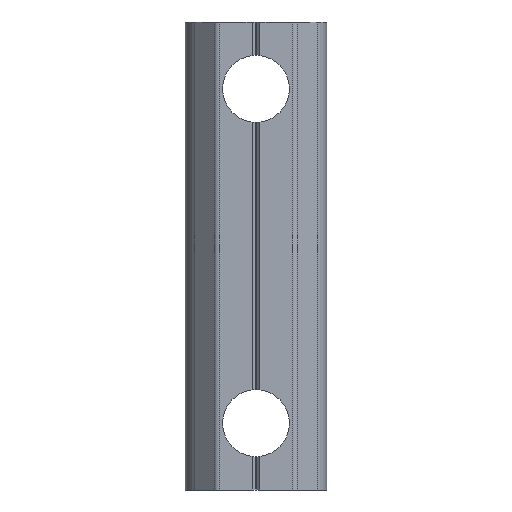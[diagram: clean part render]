
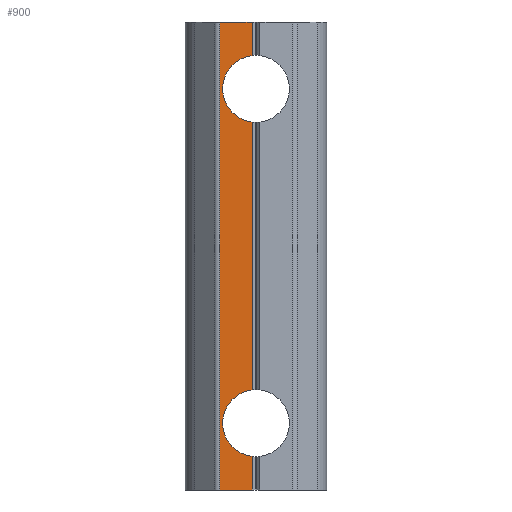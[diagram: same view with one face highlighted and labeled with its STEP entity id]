
A CAD part, front view. The second image highlights one B-rep face of the part: STEP entity #900.
In plain terms, the highlighted planar face has unit normal (0, -1, 0).
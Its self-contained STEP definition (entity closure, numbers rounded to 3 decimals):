
#14 = CIRCLE ( 'NONE', #1161, 2.5 ) ;
#131 = EDGE_CURVE ( 'NONE', #765, #1651, #1827, .T. ) ;
#181 = CARTESIAN_POINT ( 'NONE',  ( -0.291, 0., 10.017 ) ) ;
#182 = EDGE_CURVE ( 'NONE', #813, #922, #962, .T. ) ;
#239 = DIRECTION ( 'NONE',  ( 0., 0., 1. ) ) ;
#276 = CARTESIAN_POINT ( 'NONE',  ( 0., 0., -12.5 ) ) ;
#290 = ORIENTED_EDGE ( 'NONE', *, *, #774, .T. ) ;
#326 = VERTEX_POINT ( 'NONE', #599 ) ;
#361 = ORIENTED_EDGE ( 'NONE', *, *, #1805, .T. ) ;
#392 = EDGE_LOOP ( 'NONE', ( #1302, #1113, #1542, #1311, #361, #1400, #290, #1829 ) ) ;
#396 = DIRECTION ( 'NONE',  ( 0., 0., -1. ) ) ;
#471 = CARTESIAN_POINT ( 'NONE',  ( -0.291, 0., 17.5 ) ) ;
#488 = DIRECTION ( 'NONE',  ( -1., 0., 0. ) ) ;
#501 = CIRCLE ( 'NONE', #594, 2.5 ) ;
#545 = EDGE_CURVE ( 'NONE', #765, #1798, #844, .T. ) ;
#579 = DIRECTION ( 'NONE',  ( 0., 0., 1. ) ) ;
#594 = AXIS2_PLACEMENT_3D ( 'NONE', #276, #633, #651 ) ;
#599 = CARTESIAN_POINT ( 'NONE',  ( -2.728, 0., 17.5 ) ) ;
#608 = CARTESIAN_POINT ( 'NONE',  ( 2.936, 0., 17.5 ) ) ;
#614 = CARTESIAN_POINT ( 'NONE',  ( -0.291, 0., -17.5 ) ) ;
#631 = DIRECTION ( 'NONE',  ( -1., 0., 0. ) ) ;
#633 = DIRECTION ( 'NONE',  ( 0., 1., 0. ) ) ;
#651 = DIRECTION ( 'NONE',  ( 0., 0., 1. ) ) ;
#654 = CARTESIAN_POINT ( 'NONE',  ( 2.936, 0., -17.5 ) ) ;
#691 = VECTOR ( 'NONE', #1517, 1000. ) ;
#714 = VERTEX_POINT ( 'NONE', #1713 ) ;
#717 = EDGE_CURVE ( 'NONE', #326, #1798, #857, .T. ) ;
#765 = VERTEX_POINT ( 'NONE', #614 ) ;
#774 = EDGE_CURVE ( 'NONE', #922, #714, #14, .T. ) ;
#813 = VERTEX_POINT ( 'NONE', #1071 ) ;
#844 = LINE ( 'NONE', #654, #1907 ) ;
#857 = LINE ( 'NONE', #1435, #907 ) ;
#876 = CARTESIAN_POINT ( 'NONE',  ( -2.728, 0., -17.5 ) ) ;
#882 = LINE ( 'NONE', #901, #1308 ) ;
#900 = ADVANCED_FACE ( 'NONE', ( #1797 ), #1709, .T. ) ;
#901 = CARTESIAN_POINT ( 'NONE',  ( 2.936, 0., 17.5 ) ) ;
#907 = VECTOR ( 'NONE', #396, 1000. ) ;
#922 = VERTEX_POINT ( 'NONE', #181 ) ;
#962 = LINE ( 'NONE', #1477, #1693 ) ;
#1042 = EDGE_CURVE ( 'NONE', #1669, #326, #882, .T. ) ;
#1071 = CARTESIAN_POINT ( 'NONE',  ( -0.291, 0., -10.017 ) ) ;
#1097 = LINE ( 'NONE', #1791, #691 ) ;
#1102 = VECTOR ( 'NONE', #579, 1000. ) ;
#1113 = ORIENTED_EDGE ( 'NONE', *, *, #717, .T. ) ;
#1151 = EDGE_CURVE ( 'NONE', #714, #1669, #1097, .T. ) ;
#1161 = AXIS2_PLACEMENT_3D ( 'NONE', #1237, #1227, #1220 ) ;
#1191 = CARTESIAN_POINT ( 'NONE',  ( -0.291, 0., -17.5 ) ) ;
#1220 = DIRECTION ( 'NONE',  ( 0., 0., 1. ) ) ;
#1227 = DIRECTION ( 'NONE',  ( 0., 1., 0. ) ) ;
#1237 = CARTESIAN_POINT ( 'NONE',  ( 0., 0., 12.5 ) ) ;
#1302 = ORIENTED_EDGE ( 'NONE', *, *, #1042, .T. ) ;
#1308 = VECTOR ( 'NONE', #488, 1000. ) ;
#1311 = ORIENTED_EDGE ( 'NONE', *, *, #131, .T. ) ;
#1342 = DIRECTION ( 'NONE',  ( 0., 0., -1. ) ) ;
#1400 = ORIENTED_EDGE ( 'NONE', *, *, #182, .T. ) ;
#1435 = CARTESIAN_POINT ( 'NONE',  ( -2.728, 0., 17.5 ) ) ;
#1477 = CARTESIAN_POINT ( 'NONE',  ( -0.291, 0., -17.5 ) ) ;
#1517 = DIRECTION ( 'NONE',  ( 0., 0., 1. ) ) ;
#1519 = DIRECTION ( 'NONE',  ( 0., -1., 0. ) ) ;
#1542 = ORIENTED_EDGE ( 'NONE', *, *, #545, .F. ) ;
#1651 = VERTEX_POINT ( 'NONE', #1810 ) ;
#1669 = VERTEX_POINT ( 'NONE', #471 ) ;
#1693 = VECTOR ( 'NONE', #239, 1000. ) ;
#1709 = PLANE ( 'NONE',  #1717 ) ;
#1713 = CARTESIAN_POINT ( 'NONE',  ( -0.291, 0., 14.983 ) ) ;
#1717 = AXIS2_PLACEMENT_3D ( 'NONE', #608, #1519, #1342 ) ;
#1791 = CARTESIAN_POINT ( 'NONE',  ( -0.291, 0., -17.5 ) ) ;
#1797 = FACE_OUTER_BOUND ( 'NONE', #392, .T. ) ;
#1798 = VERTEX_POINT ( 'NONE', #876 ) ;
#1805 = EDGE_CURVE ( 'NONE', #1651, #813, #501, .T. ) ;
#1810 = CARTESIAN_POINT ( 'NONE',  ( -0.291, 0., -14.983 ) ) ;
#1827 = LINE ( 'NONE', #1191, #1102 ) ;
#1829 = ORIENTED_EDGE ( 'NONE', *, *, #1151, .T. ) ;
#1907 = VECTOR ( 'NONE', #631, 1000. ) ;
